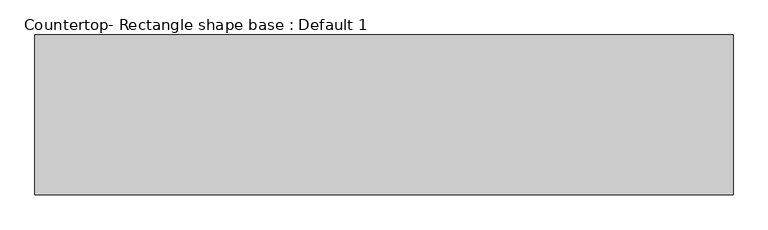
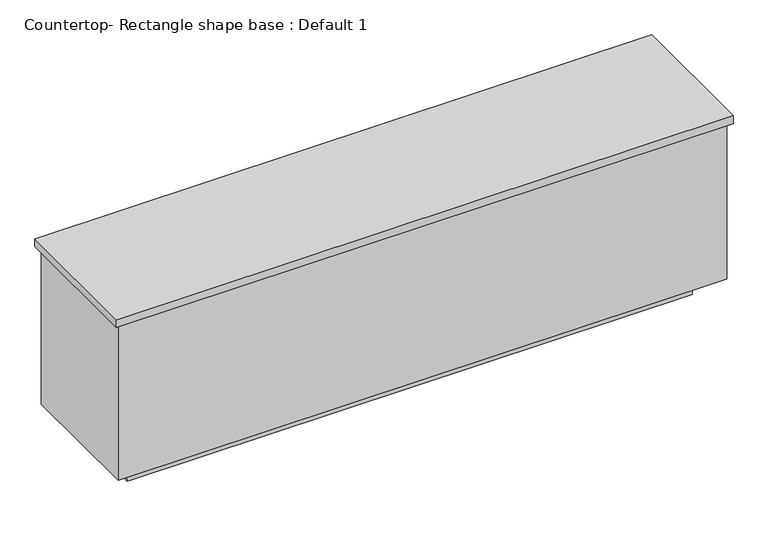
"""IFC4 building model written with IfcOpenShell, lengths in millimetres: proxy geometry, Countertop- Rectangle shape base : Default 1."""

from ifc_helpers import new_model, si_unit, frame, origin, origin_with_axes, place, context, project, spatial, polyline, outline, extrude, source, transform, mapped, element, save


def countertop_rectangle_shape_base_default_1_3255693c(model_context):
    return source(origin(), model_context, "Body", "SweptSolid", [
        extrude(outline(polyline([(-679.45, 50.8), (-679.45, 711.2), (2203.45, 711.2), (2203.45, 50.8), (-679.45, 50.8)])), frame((0.0, 0.0, 876.3), z_axis=(0.0, 0.0, 1.0), x_axis=(1.0, 0.0, 0.0)), (0.0, 0.0, 1.0), 38.1),
        extrude(outline(polyline([(2184.4, 692.15), (2184.4, 69.85), (-660.4, 69.85), (-660.4, 692.15), (2184.4, 692.15)])), frame((0.0, 0.0, 101.6), z_axis=(0.0, 0.0, 1.0), x_axis=(1.0, 0.0, 0.0)), (0.0, 0.0, 1.0), 774.7),
        extrude(outline(polyline([(2082.8, 590.55), (2082.8, 171.45), (-558.8, 171.45), (-558.8, 590.55), (2082.8, 590.55)])), origin_with_axes(), (0.0, 0.0, 1.0), 101.6),
    ])


if __name__ == "__main__":
    model = new_model("IFC4")
    model_context = context("Model", 3, world=origin())
    ifc_project = project(units=[si_unit("LENGTHUNIT", "METRE", prefix="MILLI")], contexts=[model_context])
    site = spatial("IfcSite", under=ifc_project)
    building = spatial("IfcBuilding", under=site)
    placement = place(None, origin())
    countertop_rectangle_shape_base_default_1_shape = countertop_rectangle_shape_base_default_1_3255693c(model_context)
    element("IfcBuildingElementProxy", 1, Name="Countertop- Rectangle shape base : Default 1", ObjectType="Countertop- Rectangle shape base : Default 1", at=placement, inside=building, context=model_context, shape_type="MappedRepresentation", body=[
        mapped(countertop_rectangle_shape_base_default_1_shape, transform((0.0, 0.0, 0.0), x_axis=(1.0, 0.0, 0.0), y_axis=(0.0, 1.0, 0.0), z_axis=(0.0, 0.0, 1.0))),
    ])
    save(model, "model.ifc")
